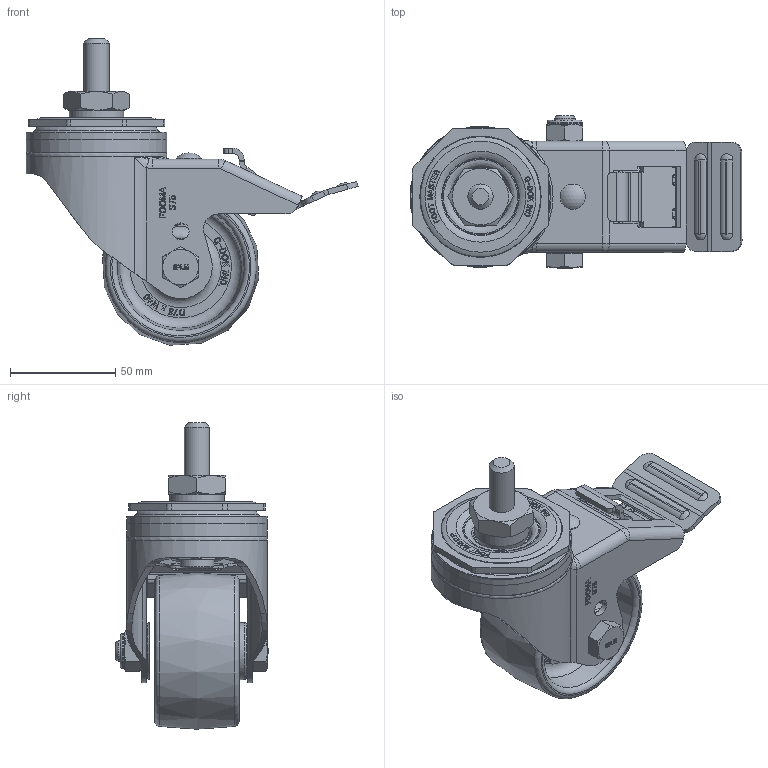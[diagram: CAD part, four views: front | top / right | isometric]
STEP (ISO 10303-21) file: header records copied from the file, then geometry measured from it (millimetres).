
FILE_DESCRIPTION(/* description */ (''),/* implementation_level */ '2;1');
FILE_NAME(/* name */ '\\192.168.10.38\지덕공유\1.기술연구소\2.연구개발 완료\완료_98.스테인레스캐스터 개발건_2023.10.26\제품설계\3D\홈페이지용\NYP\STP\SPLM-75-BSS-NYP-PM12.stp',/* time_stamp */ '2025-07-17T15:46:09+09:00',/* author */ ('admin'),/* organization */ ('지덕산업'),/* preprocessor_version */ 'ST-DEVELOPER v18.1',/* originating_system */ 'Autodesk Inventor 2021',/* authorisation */ '');
FILE_SCHEMA (('CONFIG_CONTROL_DESIGN'));
Products named in the file (1): SPLM-75-BSS-NYP-PM12
Bounding box: 157.79 x 72.3 x 145.63 mm (x, y, z)
Volume: 237711.4 mm3; surface area: 82069.2 mm2
Topology: 1 solids, 1 shells, 1727 faces, 4597 edges, 2966 vertices
Faces by surface type: plane 895, bspline 474, cylinder 253, cone 66, torus 38, sphere 1
Full cylindrical faces by diameter (mm): 6 x1, 7 x3, 8 x2, 9 x1, 10 x2, 11 x1, 12 x2, 16 x2, 16.5 x1, 25.8 x1, 54 x1, 67 x1
Entity records: 55330 total; most frequent: CARTESIAN_POINT 15451, ORIENTED_EDGE 9186, DIRECTION 6693, EDGE_CURVE 4593, VERTEX_POINT 2966, LINE 2795, VECTOR 2795, AXIS2_PLACEMENT_3D 1949
